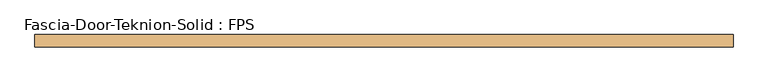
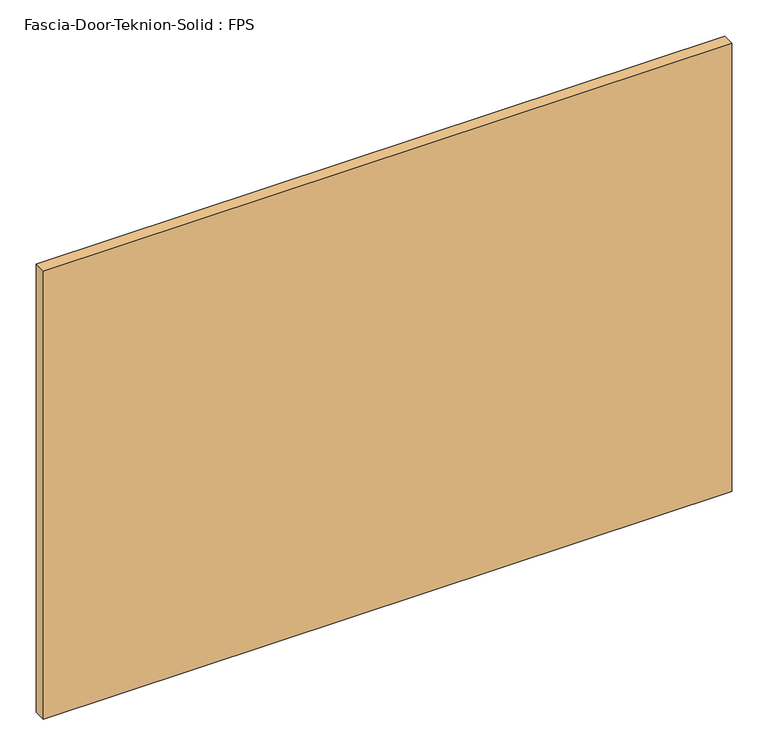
"""IFC4 building model written with IfcOpenShell, lengths in millimetres: door geometry, Fascia-Door-Teknion-Solid : FPS."""

from ifc_helpers import new_model, si_unit, frame, origin, place, context, project, spatial, polyline, outline, extrude, source, transform, mapped, element, save


def fascia_door_teknion_solid_fps_55af6ed7(model_context):
    return source(origin(), model_context, "Body", "SweptSolid", [
        extrude(outline(polyline([(544.8101563, 0.0), (544.8101563, -19.05), (-544.8101562, -19.05), (-544.8101562, 0.0), (544.8101563, 0.0)])), frame((0.0, 0.0, 3.175), z_axis=(0.0, 0.0, 1.0), x_axis=(1.0, 0.0, 0.0)), (0.0, 0.0, 1.0), 750.57),
    ])


if __name__ == "__main__":
    model = new_model("IFC4")
    model_context = context("Model", 3, world=origin())
    ifc_project = project(units=[si_unit("LENGTHUNIT", "METRE", prefix="MILLI")], contexts=[model_context])
    site = spatial("IfcSite", under=ifc_project)
    building = spatial("IfcBuilding", under=site)
    placement = place(None, origin())
    fascia_door_teknion_solid_fps_shape = fascia_door_teknion_solid_fps_55af6ed7(model_context)
    element("IfcDoor", 1, ObjectType="Fascia-Door-Teknion-Solid : FPS", at=placement, inside=building, context=model_context, shape_type="MappedRepresentation", body=[
        mapped(fascia_door_teknion_solid_fps_shape, transform((0.0, 0.0, 0.0), x_axis=(1.0, 0.0, 0.0), y_axis=(0.0, 1.0, 0.0), z_axis=(0.0, 0.0, 1.0))),
    ])
    save(model, "model.ifc")
